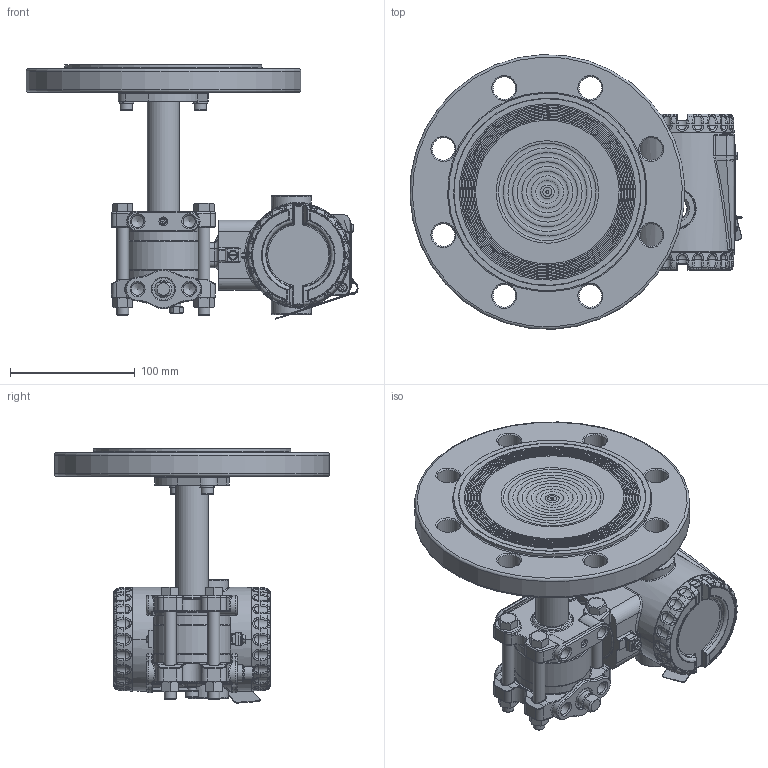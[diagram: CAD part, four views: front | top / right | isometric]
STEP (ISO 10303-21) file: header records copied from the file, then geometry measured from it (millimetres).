
FILE_DESCRIPTION(/* description */ (''),/* implementation_level */ '2;1');
FILE_NAME(/* name */ 'F:\Area\Desenvolvimento_2\Projects\Sensor\projetos\LD400-3d\dimensionais 3D clientes\LD400L\LD400L DN100 PN16 RF ref 1-4NPT purga acima.stp',/* time_stamp */ '2023-02-23T17:27:25-03:00',/* author */ ('inventor02'),/* organization */ (''),/* preprocessor_version */ 'ST-DEVELOPER v17',/* originating_system */ 'Autodesk Inventor 2019',/* authorisation */ '');
FILE_SCHEMA (('CONFIG_CONTROL_DESIGN'));
Products named in the file (38): LD30XL DN100 PN16 RF ref 1-4NPT purga acima; 204-0301-L-DN100 PN16 RF purga acima; nivel fx3 com baixa diferencial 1-4NPT purga acima; involucro fx0-3 apos a usinagem final; flange diferencial std purga; 101-C-7484-01 flange selo nivel VR; 201-A-0504-tubo união teste 1; bujao 1-4NPT; Sangria; Porca 3-8 x 16 UNC; Paraf. 3-8 x 16 UNC; adaptação tubo x flanges 1-1-2 a 4pol; 101-B-0161-anel cortado do tubo - teste1; 101-B-0162-flange fixação tubo; ANSI B18.3.1M - M6x1 x 16; DIN 127 - A 6; 101-C-0139-09; Carcaça 400 com tampas e plaqueta sem letras; 101-D-0845-05 carcaça LD400 sem letras; 101-B-3614-03-tampa 400 sem letras; Tampa visor 400 montada sem letras; 101-B-3612-05 tampa visor 400 sem letras; 101-A-6107; oring 2034; 00034775-0; WHW_250; DIN 915 - M6 x 10; Chapa aterramento externo; 201-A-1771-02 inserto terra recartilhado; AS 1969 - ST4,2; ISO 1207 - M4 x 8; ANSI B18.3.1M - M4x0,7 x 8; Subconjunto plaqueta 400; plaqueta 400 em branco; Parafuso da Plaqueta; Rebite da Plaqueta; 096-A-0169-03; 101-A-0502-01
Assembly tree (47 placements, depth 4):
  LD30XL DN100 PN16 RF ref 1-4NPT purga acima
    204-0301-L-DN100 PN16 RF purga acima
      nivel fx3 com baixa diferencial 1-4NPT purga acima
        involucro fx0-3 apos a usinagem final
        flange diferencial std purga
        101-C-7484-01 flange selo nivel VR
        201-A-0504-tubo união teste 1
        DIN 915 - M6 x 10
        bujao 1-4NPT
        Sangria
        Porca 3-8 x 16 UNC  x4
        Paraf. 3-8 x 16 UNC  x4
      adaptação tubo x flanges 1-1-2 a 4pol
        101-B-0161-anel cortado do tubo - teste1
        101-B-0162-flange fixação tubo
        ANSI B18.3.1M - M6x1 x 16  x2
        DIN 127 - A 6  x2
      101-C-0139-09
    Carcaça 400 com tampas e plaqueta sem letras
      101-D-0845-05 carcaça LD400 sem letras
      101-B-3614-03-tampa 400 sem letras
      Tampa visor 400 montada sem letras
        101-B-3612-05 tampa visor 400 sem letras
        101-A-6107
        oring 2034
        00034775-0
        WHW_250
      DIN 915 - M6 x 10
      Chapa aterramento externo
      201-A-1771-02 inserto terra recartilhado
      AS 1969 - ST4,2
      ISO 1207 - M4 x 8
      ANSI B18.3.1M - M4x0,7 x 8  x2
      Subconjunto plaqueta 400
        plaqueta 400 em branco
        Parafuso da Plaqueta
        Rebite da Plaqueta
        096-A-0169-03
        101-A-0502-01
Bounding box: 265.65 x 219.79 x 203.42 mm (x, y, z)
Volume: 1363822.1 mm3; surface area: 354811.3 mm2
Topology: 41 solids, 41 shells, 2729 faces, 6626 edges, 3964 vertices
Faces by surface type: plane 707, cylinder 660, bspline 604, torus 458, cone 224, sphere 76
Full cylindrical faces by diameter (mm): 2 x4, 2.1 x1, 2.2 x1, 2.459 x3, 2.5 x1, 2.7 x1, 2.8 x1, 3 x4, 3.242 x3, 3.5 x1, 3.571 x1, 4 x5, 4.3 x2, 4.4 x1, 4.917 x4, 5 x1, 5.5 x3, 6 x6, 6.1 x2, 6.2 x1, 6.647 x1, 7 x5, 7.6 x2, 7.798 x4, 8 x1, 9.525 x4, 9.728 x6, 10 x2, 10.5 x8, 10.719 x2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
Entity records: 97417 total; most frequent: CARTESIAN_POINT 36875, ORIENTED_EDGE 12492, DIRECTION 12444, EDGE_CURVE 6246, AXIS2_PLACEMENT_3D 5312, VERTEX_POINT 3770, CIRCLE 3076, EDGE_LOOP 2758
